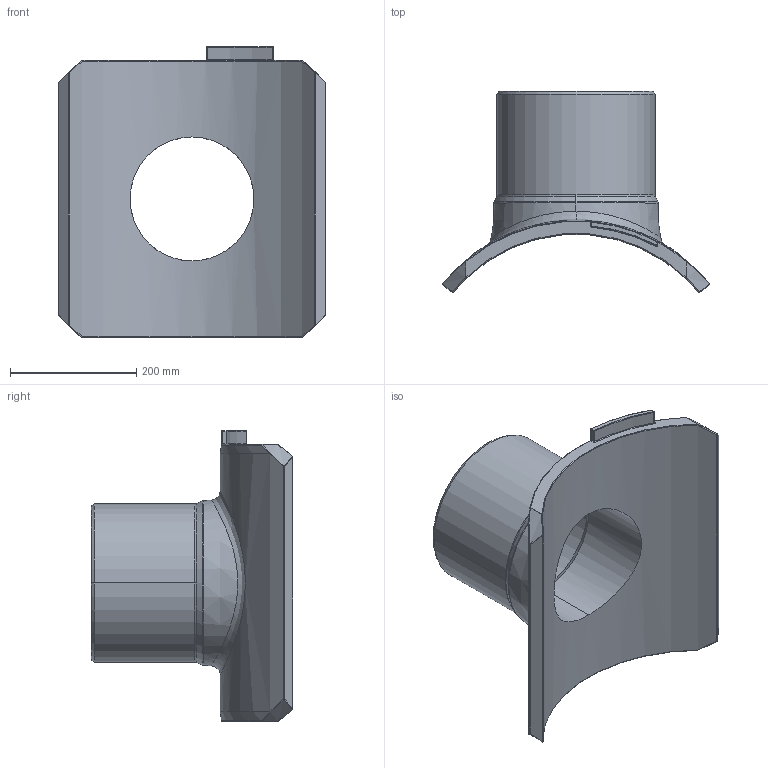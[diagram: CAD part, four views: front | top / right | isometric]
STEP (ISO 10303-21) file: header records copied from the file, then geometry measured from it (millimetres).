
FILE_DESCRIPTION((''),'2;1');
FILE_NAME('SA-UNI_D500_250_01','2024-10-29T13:41:50',('mikulicp'),(''),'CREO PARAMETRIC BY PTC INC, 2024133','CREO PARAMETRIC BY PTC INC, 2024133','');
FILE_SCHEMA(('AP242_MANAGED_MODEL_BASED_3D_ENGINEERING_MIM_LF { 1 0 10303 442 1 1 4 }'));
Length unit declared in the file: millimetre
Products named in the file (2): SA-UNI_D500_250_01; PE100
Bounding box: 422.58 x 318.63 x 460 mm (x, y, z)
Volume: 7794541 mm3; surface area: 694273 mm2
Topology: 1 solids, 1 shells, 241 faces, 583 edges, 360 vertices
Faces by surface type: bspline 75, plane 70, cylinder 49, sphere 20, torus 15, cone 12
Entity records: 14981 total; most frequent: CARTESIAN_POINT 6832, ORIENTED_EDGE 1166, DIRECTION 890, PRESENTATION_STYLE_ASSIGNMENT 595, STYLED_ITEM 584, CURVE_STYLE 583, EDGE_CURVE 583, VERTEX_POINT 360
